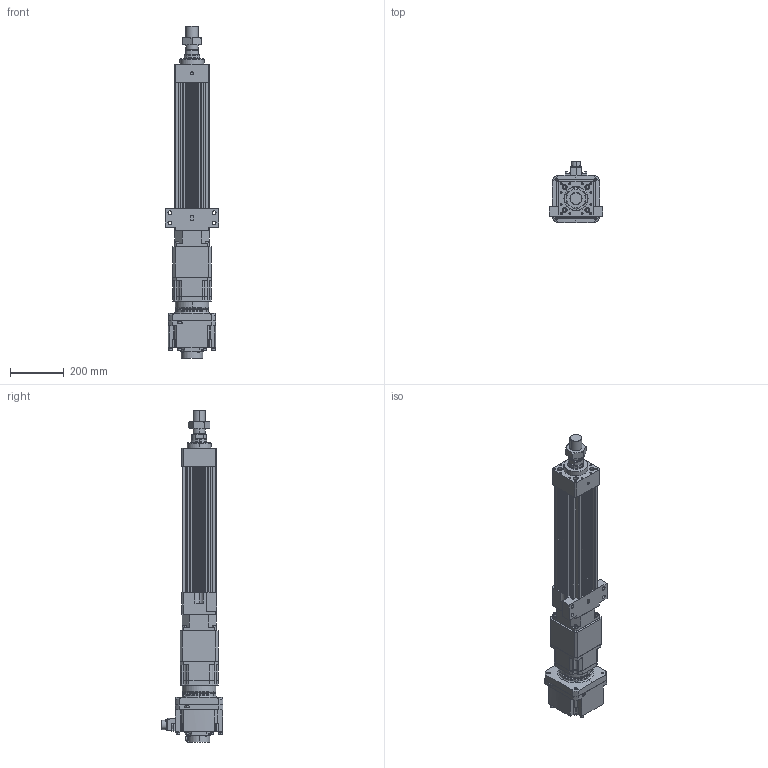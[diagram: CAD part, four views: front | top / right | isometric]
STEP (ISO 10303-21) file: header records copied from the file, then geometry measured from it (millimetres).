
FILE_DESCRIPTION (( 'STEP AP203' ), '1' );
FILE_NAME ('HES130FS(HS)-S250-W020G00-M-FFC.STEP', '2023-01-31T03:06:27', ( 'tms' ), ( '' ), 'SwSTEP 2.0', 'SolidWorks 2013', '' );
FILE_SCHEMA (( 'CONFIG_CONTROL_DESIGN' ));
Length unit declared in the file: millimetre
Products named in the file (9): HES130-S250-G142-FFC; HES130FS(HS)-S250-W020G00-M-FFC; HES130 ROD M ST250; P0403500801; P1301500001; AB142-003[HG-SR352]; HG-SR202; M45X1.5P; AB1421
Assembly tree (8 placements, depth 3):
  HES130FS(HS)-S250-W020G00-M-FFC
    HES130-S250-G142-FFC
    HES130 ROD M ST250
    M45X1.5P
    AB142-003[HG-SR352]
      AB1421
      P1301500001
      P0403500801
    HG-SR202
Bounding box: 200 x 228.85 x 1237.5 mm (x, y, z)
Volume: 11095087.1 mm3; surface area: 1397656.2 mm2
Topology: 4 solids, 22 shells, 1546 faces, 3982 edges, 2565 vertices
Faces by surface type: cylinder 694, plane 586, cone 184, bspline 76, torus 6
Entity records: 55838 total; most frequent: CARTESIAN_POINT 16862, DIRECTION 8160, ORIENTED_EDGE 7822, EDGE_CURVE 3933, AXIS2_PLACEMENT_3D 3080, VERTEX_POINT 2565, VECTOR 2000, LINE 2000
